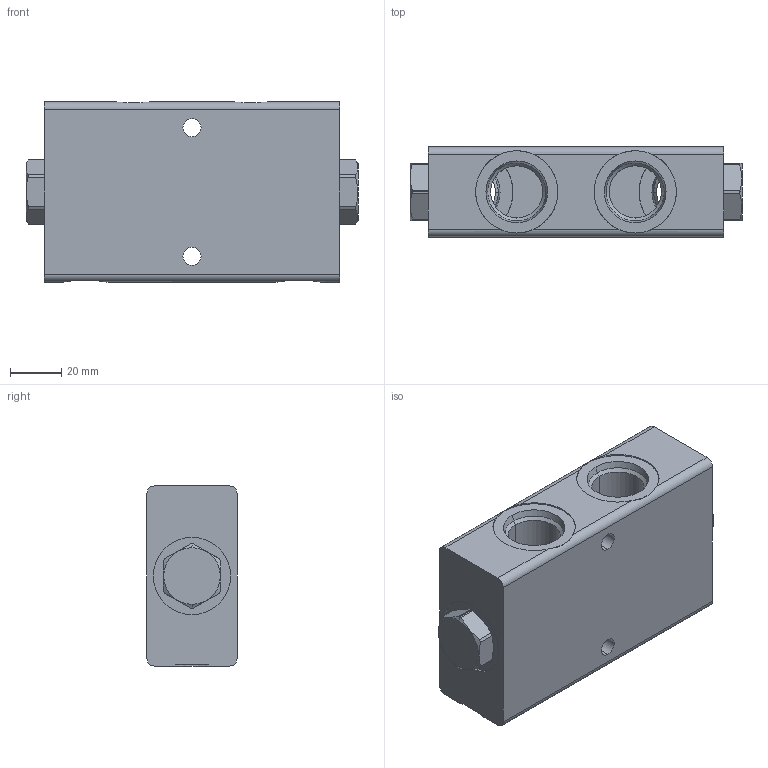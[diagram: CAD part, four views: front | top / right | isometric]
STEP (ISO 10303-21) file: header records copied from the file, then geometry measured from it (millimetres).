
FILE_DESCRIPTION (( 'STEP AP214' ), '1' );
FILE_NAME ('VRP78001.STEP', '2025-06-17T01:33:44', ( '' ), ( '' ), 'SwSTEP 2.0', 'SolidWorks 2023', '' );
FILE_SCHEMA (( 'AUTOMOTIVE_DESIGN' ));
Length unit declared in the file: millimetre
Products named in the file (1): VRP78001
Bounding box: 129 x 35 x 70 mm (x, y, z)
Surface area: 34971.8 mm2 (no closed solid volume)
Topology: 0 solids, 3 shells, 100 faces, 268 edges, 174 vertices
Faces by surface type: cylinder 48, plane 32, cone 20
Entity records: 3466 total; most frequent: CARTESIAN_POINT 943, DIRECTION 552, ORIENTED_EDGE 490, EDGE_CURVE 268, AXIS2_PLACEMENT_3D 223, VERTEX_POINT 174, CIRCLE 122, EDGE_LOOP 112
